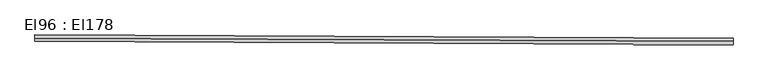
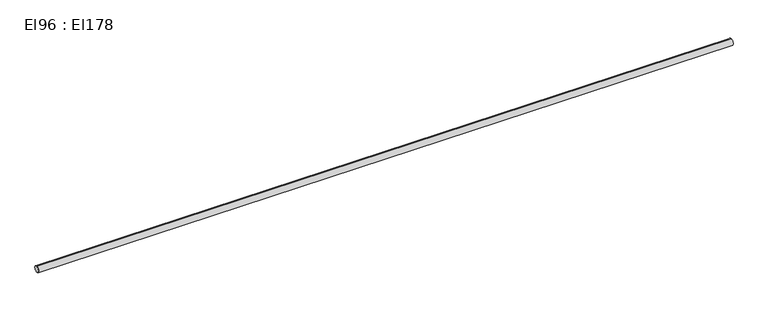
"""IFC4 building model written with IfcOpenShell, lengths in millimetres: cable carrier segment geometry, El96 : El178."""

from ifc_helpers import new_model, si_unit, point, frame, frame_2d, origin, place, context, project, spatial, circle_curve, trimmed, segment, composite_curve, outline, extrude, source, transform, mapped, element, save


def el96_el178_324f8018(model_context):
    return source(origin(), model_context, "Body", "SweptSolid", [
        extrude(outline(composite_curve([segment(trimmed(circle_curve(frame_2d((0.0, -9.5)), 9.5), [point((0.0, -19.0))], [point((0.0, 0.0))], False, "CARTESIAN"), True, "CONTINUOUS"), segment(trimmed(circle_curve(frame_2d((0.0, -9.5)), 9.5), [point((0.0, 0.0))], [point((0.0, -19.0))], False, "CARTESIAN"), True, "CONTINUOUS")], self_intersect=False)), frame((4517.4410356, 25666.1949723, 1809.5), z_axis=(-0.9999884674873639, 0.004802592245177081, 0.0), x_axis=(-0.004802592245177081, -0.9999884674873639, 0.0)), (0.0, 0.0, 1.0), 2047.73),
    ])


if __name__ == "__main__":
    model = new_model("IFC4")
    model_context = context("Model", 3, world=origin())
    ifc_project = project(units=[si_unit("LENGTHUNIT", "METRE", prefix="MILLI")], contexts=[model_context])
    site = spatial("IfcSite", under=ifc_project)
    building = spatial("IfcBuilding", under=site)
    placement = place(None, origin())
    el96_el178_shape = el96_el178_324f8018(model_context)
    element("IfcCableCarrierSegment", 1, ObjectType="El96 : El178", at=placement, inside=building, context=model_context, shape_type="MappedRepresentation", body=[
        mapped(el96_el178_shape, transform((0.0, 0.0, 0.0), x_axis=(1.0, 0.0, 0.0), y_axis=(0.0, 1.0, 0.0), z_axis=(0.0, 0.0, 1.0))),
    ])
    save(model, "model.ifc")
